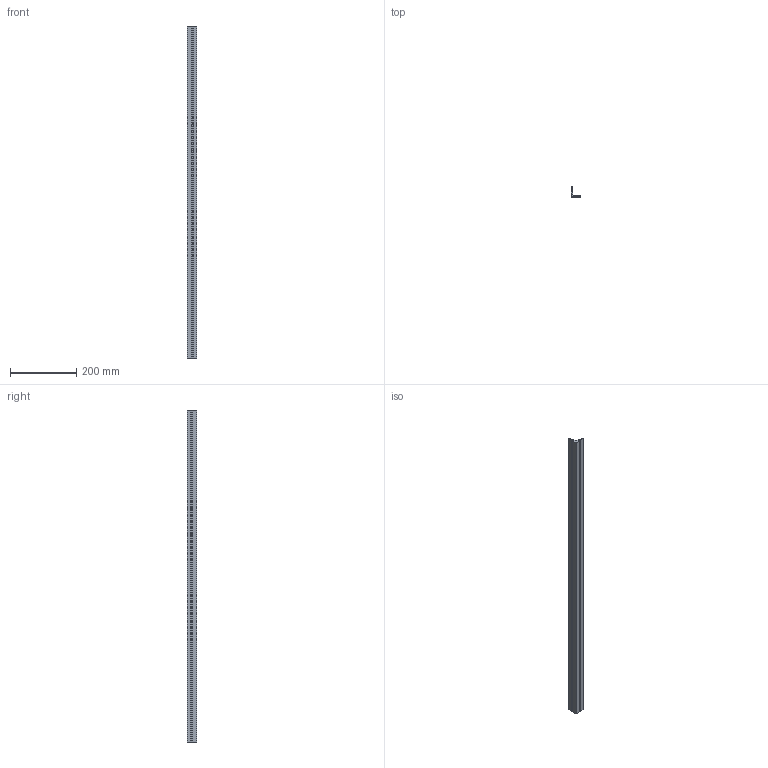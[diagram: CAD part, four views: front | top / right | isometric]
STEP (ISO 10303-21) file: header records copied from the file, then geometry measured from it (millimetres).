
FILE_DESCRIPTION(/* description */ (''),/* implementation_level */ '2;1');
FILE_NAME(/* name */ 'C:\Users\AMS43\Documents\Inventor\AMS\misumi\\X2\30B930DA30B730E330EB30D530EC30FC30E0\X0\_ipt\\X2\30B930DA30B730E330EB30D530EC30FC30E0\X0\_stp\AFL-3030.ipt.stp',/* time_stamp */ '2016-10-06T11:40:50+09:00',/* author */ ('AMS43'),/* organization */ (''),/* preprocessor_version */ 'ST-DEVELOPER v15.2',/* originating_system */ 'Autodesk Inventor 2014',/* authorisation */ '');
FILE_SCHEMA (('AUTOMOTIVE_DESIGN { 1 0 10303 214 3 1 1 }'));
Length unit declared in the file: metre
Products named in the file (1): AFL-3030
Bounding box: 30 x 30 x 1000 mm (x, y, z)
Volume: 274917.2 mm3; surface area: 118205.5 mm2
Topology: 1 solids, 1 shells, 35 faces, 99 edges, 66 vertices
Faces by surface type: plane 33, cylinder 2
Entity records: 1148 total; most frequent: CARTESIAN_POINT 201, ORIENTED_EDGE 198, DIRECTION 175, EDGE_CURVE 99, LINE 95, VECTOR 95, VERTEX_POINT 66, AXIS2_PLACEMENT_3D 40
